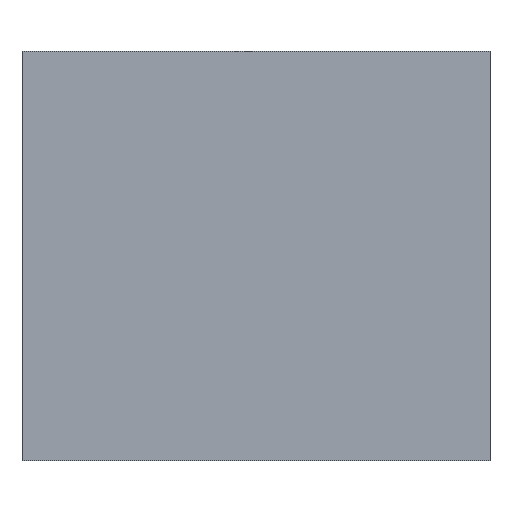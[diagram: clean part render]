
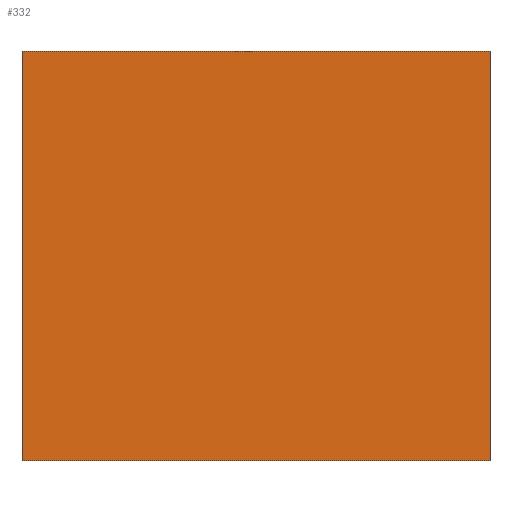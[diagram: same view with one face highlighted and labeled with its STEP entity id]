
A CAD part, left-side view. The second image highlights one B-rep face of the part: STEP entity #332.
In plain terms, the highlighted planar face has unit normal (-1, 0, 0).
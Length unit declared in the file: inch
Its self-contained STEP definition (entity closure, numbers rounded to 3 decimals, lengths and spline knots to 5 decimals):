
#27 = ORIENTED_EDGE ( 'NONE', *, *, #835, .F. ) ;
#141 = VERTEX_POINT ( 'NONE', #1375 ) ;
#253 = LINE ( 'NONE', #1648, #582 ) ;
#259 = LINE ( 'NONE', #1350, #570 ) ;
#269 = ORIENTED_EDGE ( 'NONE', *, *, #946, .T. ) ;
#278 = CARTESIAN_POINT ( 'NONE',  ( -1., 1., -0.875 ) ) ;
#297 = VERTEX_POINT ( 'NONE', #873 ) ;
#332 = ADVANCED_FACE ( 'NONE', ( #1299 ), #1632, .T. ) ;
#333 = CARTESIAN_POINT ( 'NONE',  ( -1., 1., -0.875 ) ) ;
#350 = VERTEX_POINT ( 'NONE', #1354 ) ;
#445 = DIRECTION ( 'NONE',  ( 0., -1., 0. ) ) ;
#507 = EDGE_CURVE ( 'NONE', #141, #520, #1571, .T. ) ;
#520 = VERTEX_POINT ( 'NONE', #1613 ) ;
#546 = DIRECTION ( 'NONE',  ( 0., 0., 1. ) ) ;
#570 = VECTOR ( 'NONE', #1216, 39.37008 ) ;
#582 = VECTOR ( 'NONE', #445, 39.37008 ) ;
#629 = ORIENTED_EDGE ( 'NONE', *, *, #649, .F. ) ;
#649 = EDGE_CURVE ( 'NONE', #297, #350, #259, .T. ) ;
#693 = DIRECTION ( 'NONE',  ( 0., 0., 1. ) ) ;
#801 = ORIENTED_EDGE ( 'NONE', *, *, #507, .T. ) ;
#835 = EDGE_CURVE ( 'NONE', #350, #520, #253, .T. ) ;
#873 = CARTESIAN_POINT ( 'NONE',  ( -1., 1., -0.875 ) ) ;
#905 = AXIS2_PLACEMENT_3D ( 'NONE', #278, #1376, #546 ) ;
#946 = EDGE_CURVE ( 'NONE', #297, #141, #952, .T. ) ;
#952 = LINE ( 'NONE', #333, #1197 ) ;
#1146 = DIRECTION ( 'NONE',  ( 0., -1., 0. ) ) ;
#1197 = VECTOR ( 'NONE', #1146, 39.37008 ) ;
#1205 = EDGE_LOOP ( 'NONE', ( #27, #629, #269, #801 ) ) ;
#1216 = DIRECTION ( 'NONE',  ( 0., 0., 1. ) ) ;
#1299 = FACE_OUTER_BOUND ( 'NONE', #1205, .T. ) ;
#1350 = CARTESIAN_POINT ( 'NONE',  ( -1., 1., -0.875 ) ) ;
#1354 = CARTESIAN_POINT ( 'NONE',  ( -1., 1., 0.875 ) ) ;
#1375 = CARTESIAN_POINT ( 'NONE',  ( -1., -1., -0.875 ) ) ;
#1376 = DIRECTION ( 'NONE',  ( -1., 0., 0. ) ) ;
#1571 = LINE ( 'NONE', #1755, #1639 ) ;
#1613 = CARTESIAN_POINT ( 'NONE',  ( -1., -1., 0.875 ) ) ;
#1632 = PLANE ( 'NONE',  #905 ) ;
#1639 = VECTOR ( 'NONE', #693, 39.37008 ) ;
#1648 = CARTESIAN_POINT ( 'NONE',  ( -1., 1., 0.875 ) ) ;
#1755 = CARTESIAN_POINT ( 'NONE',  ( -1., -1., -0.875 ) ) ;
